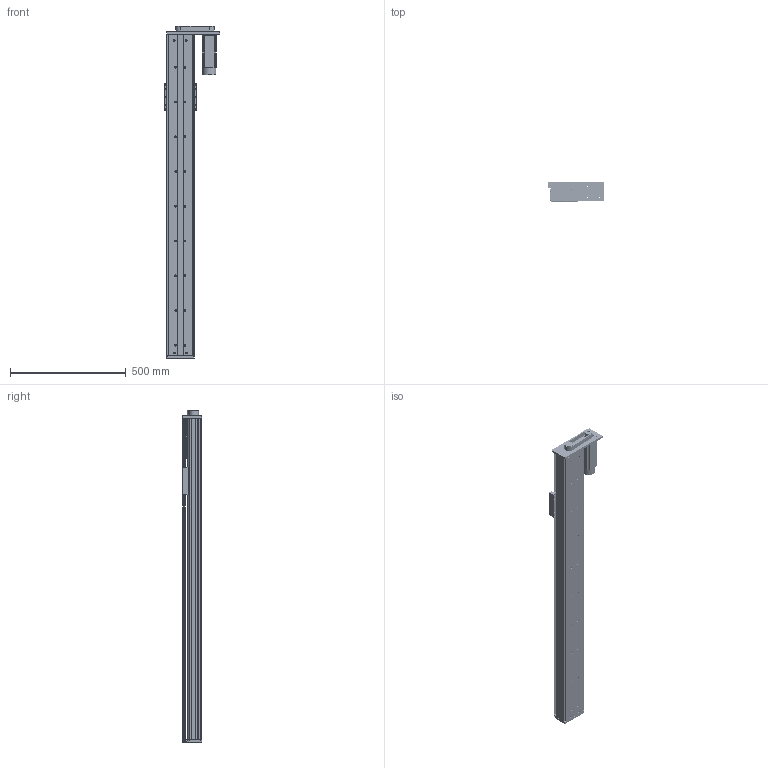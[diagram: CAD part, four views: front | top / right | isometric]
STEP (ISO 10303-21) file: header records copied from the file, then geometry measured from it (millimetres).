
FILE_DESCRIPTION (( 'STEP AP214' ), '1' );
FILE_NAME ('CF120-10-C-P1350-FWR.STEP', '2016-04-24T04:44:32', ( '' ), ( '' ), 'SwSTEP 2.0', 'SolidWorks 2015', '' );
FILE_SCHEMA (( 'AUTOMOTIVE_DESIGN' ));
Length unit declared in the file: millimetre
Products named in the file (18): 粣創結啣; CF120蜊輛耜啣; EK12; CF120賑雄啣; 60机座海德伺服电机; CF120-P1350裔啣; CF120蹟譫釱; CF120-P1350丝杆同步带铝型材; EK12+EF12萇儂酘耜蚾佪裝-P600; EGR15-P600-880; EF12; CF120-10-C-P1350-FWR; EGH-15-CABZnew; CF120-丝杆同步带伺服60右折电机板; SFU1605-3蹟譫; 20-5M-20-囀噤10; 肮祭湍HTD5M-20
Assembly tree (22 placements, depth 3):
  CF120-10-C-P1350-FWR
    EGH-15-CABZnew  x4
    SFU1605-3蹟譫
    EK12
      EK12
      粣創結啣
    EF12
    CF120賑雄啣
    CF120蹟譫釱
    EGR15-P600-880  x2
    EK12+EF12萇儂酘耜蚾佪裝-P600
    CF120-P1350丝杆同步带铝型材
    CF120-P1350裔啣
    CF120蜊輛耜啣
    20-5M-20-囀噤10  x2
    60机座海德伺服电机
    肮祭湍HTD5M-20
    CF120-丝杆同步带伺服60右折电机板
Bounding box: 240 x 84.5 x 1433 mm (x, y, z)
Volume: 5529273.5 mm3; surface area: 1705731.9 mm2
Topology: 17 solids, 69 shells, 7514 faces, 28138 edges, 19328 vertices
Faces by surface type: plane 3537, bspline 2351, cylinder 1236, cone 150, torus 136, sphere 104
Entity records: 157881 total; most frequent: CARTESIAN_POINT 61455, ORIENTED_EDGE 16624, DIRECTION 13022, EDGE_CURVE 9436, VERTEX_POINT 6423, LINE 5334, VECTOR 5334, AXIS2_PLACEMENT_3D 3844
